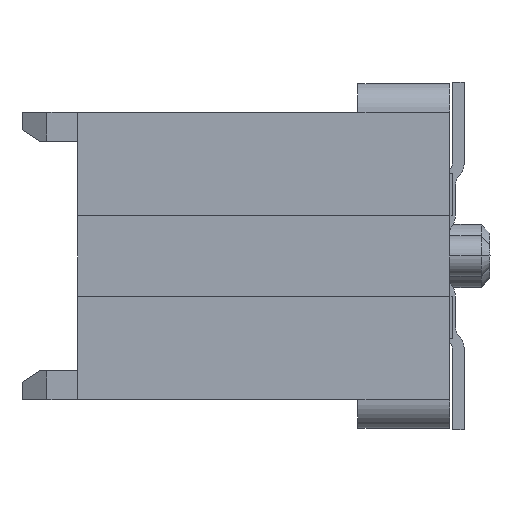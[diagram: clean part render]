
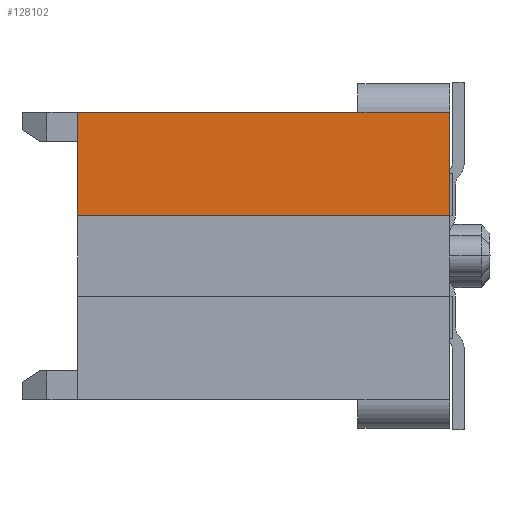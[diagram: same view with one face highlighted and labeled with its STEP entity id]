
A CAD part, left-side view. The second image highlights one B-rep face of the part: STEP entity #128102.
In plain terms, the highlighted planar face has unit normal (-1, 0, 0).
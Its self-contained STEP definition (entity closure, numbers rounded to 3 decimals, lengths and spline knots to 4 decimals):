
#9991 = VECTOR ( 'NONE', #44249, 1000. ) ;
#13680 = LINE ( 'NONE', #168533, #109182 ) ;
#14971 = CARTESIAN_POINT ( 'NONE',  ( -4., -0.1, -2.3 ) ) ;
#15319 = CARTESIAN_POINT ( 'NONE',  ( -4., 6.38, -2.3 ) ) ;
#24944 = LINE ( 'NONE', #64186, #103943 ) ;
#26236 = ORIENTED_EDGE ( 'NONE', *, *, #98130, .F. ) ;
#28124 = EDGE_CURVE ( 'NONE', #84373, #82447, #118720, .T. ) ;
#33212 = VERTEX_POINT ( 'NONE', #70195 ) ;
#42159 = EDGE_CURVE ( 'NONE', #33212, #92063, #24944, .T. ) ;
#43217 = DIRECTION ( 'NONE',  ( 0., 0., -1. ) ) ;
#44249 = DIRECTION ( 'NONE',  ( 0., 0., 1. ) ) ;
#49898 = VECTOR ( 'NONE', #79507, 1000. ) ;
#51576 = EDGE_LOOP ( 'NONE', ( #77861, #96200, #161939, #26236, #82935 ) ) ;
#55418 = DIRECTION ( 'NONE',  ( 0., 1., 0. ) ) ;
#63147 = EDGE_CURVE ( 'NONE', #84373, #163917, #143089, .T. ) ;
#64186 = CARTESIAN_POINT ( 'NONE',  ( -4., 1.5, -0.5 ) ) ;
#65516 = CARTESIAN_POINT ( 'NONE',  ( -4., 6.38, -2.3 ) ) ;
#66404 = EDGE_CURVE ( 'NONE', #163917, #33212, #13680, .T. ) ;
#70195 = CARTESIAN_POINT ( 'NONE',  ( -4., 1.5, -0.5 ) ) ;
#70586 = DIRECTION ( 'NONE',  ( 0., -1., 0. ) ) ;
#71113 = AXIS2_PLACEMENT_3D ( 'NONE', #139358, #140284, #55418 ) ;
#76023 = VECTOR ( 'NONE', #43217, 1000. ) ;
#77861 = ORIENTED_EDGE ( 'NONE', *, *, #66404, .F. ) ;
#79507 = DIRECTION ( 'NONE',  ( 0., -1., 0. ) ) ;
#82447 = VERTEX_POINT ( 'NONE', #14971 ) ;
#82935 = ORIENTED_EDGE ( 'NONE', *, *, #42159, .F. ) ;
#84373 = VERTEX_POINT ( 'NONE', #88986 ) ;
#88986 = CARTESIAN_POINT ( 'NONE',  ( -4., 6.38, -2.3 ) ) ;
#92063 = VERTEX_POINT ( 'NONE', #158037 ) ;
#96200 = ORIENTED_EDGE ( 'NONE', *, *, #63147, .F. ) ;
#98130 = EDGE_CURVE ( 'NONE', #92063, #82447, #154233, .T. ) ;
#103943 = VECTOR ( 'NONE', #135957, 1000. ) ;
#107046 = PLANE ( 'NONE',  #71113 ) ;
#109182 = VECTOR ( 'NONE', #70586, 1000. ) ;
#118720 = LINE ( 'NONE', #65516, #49898 ) ;
#128102 = ADVANCED_FACE ( 'NONE', ( #183195 ), #107046, .F. ) ;
#135957 = DIRECTION ( 'NONE',  ( 0., -1., 0. ) ) ;
#139358 = CARTESIAN_POINT ( 'NONE',  ( -4., 3.14, -1.4 ) ) ;
#140284 = DIRECTION ( 'NONE',  ( 1., 0., 0. ) ) ;
#143089 = LINE ( 'NONE', #15319, #9991 ) ;
#154233 = LINE ( 'NONE', #157945, #76023 ) ;
#157945 = CARTESIAN_POINT ( 'NONE',  ( -4., -0.1, -0.5 ) ) ;
#158037 = CARTESIAN_POINT ( 'NONE',  ( -4., -0.1, -0.5 ) ) ;
#161939 = ORIENTED_EDGE ( 'NONE', *, *, #28124, .T. ) ;
#163917 = VERTEX_POINT ( 'NONE', #171097 ) ;
#168533 = CARTESIAN_POINT ( 'NONE',  ( -4., 6.38, -0.5 ) ) ;
#171097 = CARTESIAN_POINT ( 'NONE',  ( -4., 6.38, -0.5 ) ) ;
#183195 = FACE_OUTER_BOUND ( 'NONE', #51576, .T. ) ;
